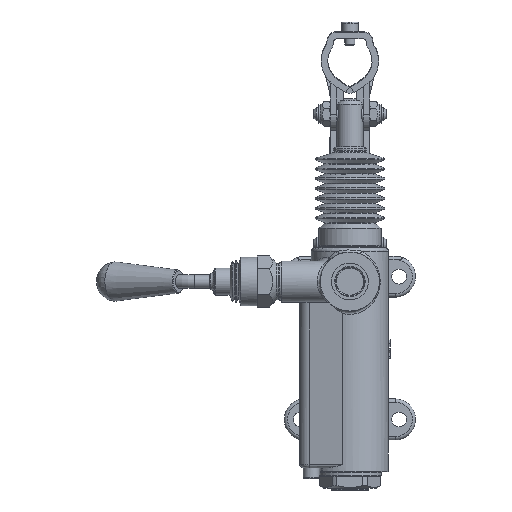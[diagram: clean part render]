
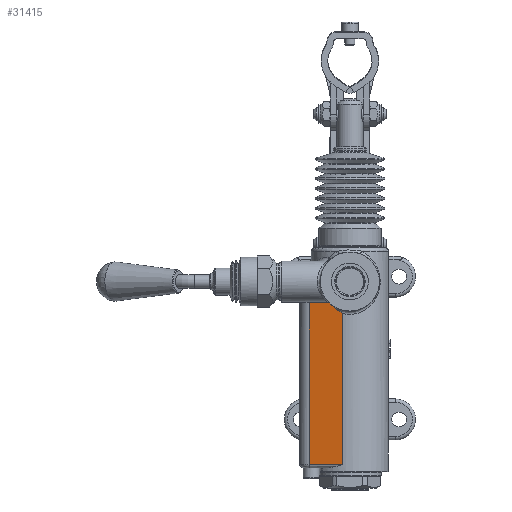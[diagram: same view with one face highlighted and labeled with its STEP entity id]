
A CAD part, front view. The second image highlights one B-rep face of the part: STEP entity #31415.
In plain terms, the highlighted planar face has unit normal (-0.202, -0.979, 0).
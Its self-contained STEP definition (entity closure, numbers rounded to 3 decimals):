
#29575=CARTESIAN_POINT('',(-4.747,-23.015,98.175));
#29576=VERTEX_POINT('',#29575);
#29662=CARTESIAN_POINT('',(-4.747,-23.015,6.0));
#29663=VERTEX_POINT('',#29662);
#29664=CARTESIAN_POINT('',(-4.747,-23.015,6.0));
#29665=DIRECTION('',(0.0,0.0,1.0));
#29666=VECTOR('',#29665,92.175);
#29667=LINE('',#29664,#29666);
#29668=EDGE_CURVE('',#29663,#29576,#29667,.T.);
#31311=CARTESIAN_POINT('',(-24.914,-18.856,6.0));
#31312=VERTEX_POINT('',#31311);
#31349=CARTESIAN_POINT('',(-4.747,-23.015,6.0));
#31350=DIRECTION('',(-0.979,0.202,0.0));
#31351=VECTOR('',#31350,20.591);
#31352=LINE('',#31349,#31351);
#31353=EDGE_CURVE('',#29663,#31312,#31352,.T.);
#31360=CARTESIAN_POINT('',(-4.747,-23.015,4.0));
#31361=DIRECTION('',(-0.202,-0.979,0.0));
#31362=DIRECTION('',(0.0,0.0,-1.0));
#31363=AXIS2_PLACEMENT_3D('',#31360,#31361,#31362);
#31364=PLANE('',#31363);
#31365=ORIENTED_EDGE('',*,*,#31353,.F.);
#31366=ORIENTED_EDGE('',*,*,#29668,.T.);
#31367=CARTESIAN_POINT('',(-12.424,-21.432,104.475));
#31368=VERTEX_POINT('',#31367);
#31369=CARTESIAN_POINT('',(-12.424,-21.432,104.475));
#31370=CARTESIAN_POINT('',(-11.397,-21.644,103.493));
#31371=CARTESIAN_POINT('',(-10.387,-21.852,102.531));
#31372=CARTESIAN_POINT('',(-7.879,-22.369,100.333));
#31373=CARTESIAN_POINT('',(-6.379,-22.679,99.153));
#31374=CARTESIAN_POINT('',(-4.761,-23.013,98.183));
#31375=CARTESIAN_POINT('',(-4.754,-23.014,98.179));
#31376=CARTESIAN_POINT('',(-4.747,-23.015,98.175));
#31377=B_SPLINE_CURVE_WITH_KNOTS('',3,(#31369,#31370,#31371,#31372,#31373,#31374,#31375,#31376),.UNSPECIFIED.,.F.,.U.,(4,2,2,4),(-1.014,-0.572,0.0,0.002),.UNSPECIFIED.);
#31378=EDGE_CURVE('',#31368,#29576,#31377,.T.);
#31379=ORIENTED_EDGE('',*,*,#31378,.F.);
#31380=CARTESIAN_POINT('',(-13.714,-21.166,105.01));
#31381=VERTEX_POINT('',#31380);
#31382=CARTESIAN_POINT('',(-13.749,-21.159,103.03));
#31383=DIRECTION('',(0.202,0.979,0.0));
#31384=DIRECTION('',(0.0,0.0,1.0));
#31385=AXIS2_PLACEMENT_3D('',#31382,#31383,#31384);
#31386=CIRCLE('',#31385,1.979);
#31387=EDGE_CURVE('',#31381,#31368,#31386,.T.);
#31388=ORIENTED_EDGE('',*,*,#31387,.F.);
#31389=CARTESIAN_POINT('',(-14.256,-21.054,105.012));
#31390=VERTEX_POINT('',#31389);
#31391=CARTESIAN_POINT('',(-14.256,-21.054,105.012));
#31392=CARTESIAN_POINT('',(-14.075,-21.091,105.014));
#31393=CARTESIAN_POINT('',(-13.894,-21.129,105.013));
#31394=CARTESIAN_POINT('',(-13.714,-21.166,105.01));
#31395=B_SPLINE_CURVE_WITH_KNOTS('',3,(#31391,#31392,#31393,#31394),.UNSPECIFIED.,.F.,.U.,(4,4),(-0.055,0.0),.UNSPECIFIED.);
#31396=EDGE_CURVE('',#31390,#31381,#31395,.T.);
#31397=ORIENTED_EDGE('',*,*,#31396,.F.);
#31398=CARTESIAN_POINT('',(-24.914,-18.856,105.109));
#31399=VERTEX_POINT('',#31398);
#31400=CARTESIAN_POINT('',(-16.942,-20.5,117.5));
#31401=DIRECTION('',(-0.202,-0.979,0.0));
#31402=DIRECTION('',(0.979,-0.202,0.0));
#31403=AXIS2_PLACEMENT_3D('',#31400,#31401,#31402);
#31404=ELLIPSE('',#31403,61.876,12.5);
#31405=EDGE_CURVE('',#31399,#31390,#31404,.T.);
#31406=ORIENTED_EDGE('',*,*,#31405,.F.);
#31407=CARTESIAN_POINT('',(-24.914,-18.856,6.0));
#31408=DIRECTION('',(0.0,0.0,1.0));
#31409=VECTOR('',#31408,99.109);
#31410=LINE('',#31407,#31409);
#31411=EDGE_CURVE('',#31312,#31399,#31410,.T.);
#31412=ORIENTED_EDGE('',*,*,#31411,.F.);
#31413=EDGE_LOOP('',(#31365,#31366,#31379,#31388,#31397,#31406,#31412));
#31414=FACE_OUTER_BOUND('',#31413,.T.);
#31415=ADVANCED_FACE('',(#31414),#31364,.T.);
